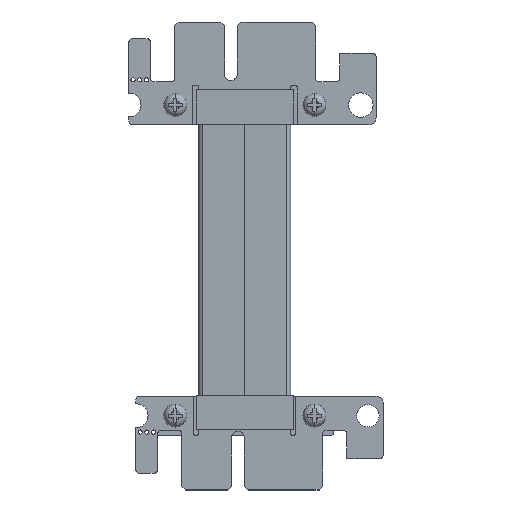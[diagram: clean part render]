
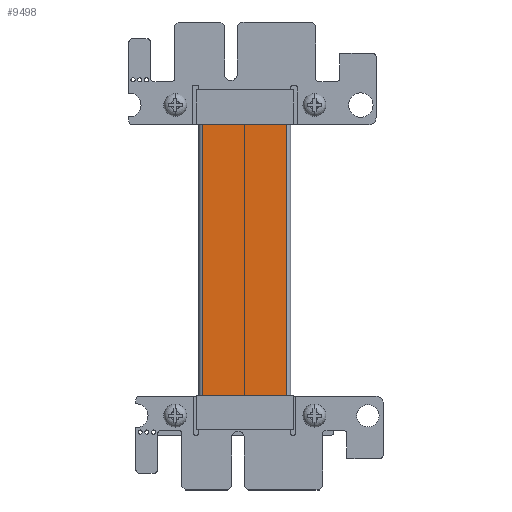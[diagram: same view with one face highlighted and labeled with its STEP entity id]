
A CAD part, top view. The second image highlights one B-rep face of the part: STEP entity #9498.
In plain terms, the highlighted planar face has unit normal (0, 0, 1) as drawn and (0, -1, 0) by its records, which use the part's own axes.
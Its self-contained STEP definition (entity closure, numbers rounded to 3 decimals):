
#9461 = VERTEX_POINT('',#9462);
#9462 = CARTESIAN_POINT('',(12.065,-1.4,-43.));
#9480 = VERTEX_POINT('',#9481);
#9481 = CARTESIAN_POINT('',(12.065,-1.4,0.));
#9488 = EDGE_CURVE('',#9461,#9480,#9489,.T.);
#9489 = LINE('',#9490,#9491);
#9490 = CARTESIAN_POINT('',(12.065,-1.4,-43.));
#9491 = VECTOR('',#9492,1.);
#9492 = DIRECTION('',(0.,0.,1.));
#9498 = ADVANCED_FACE('',(#9499),#9524,.T.);
#9499 = FACE_BOUND('',#9500,.T.);
#9500 = EDGE_LOOP('',(#9501,#9509,#9517,#9523));
#9501 = ORIENTED_EDGE('',*,*,#9502,.F.);
#9502 = EDGE_CURVE('',#9503,#9480,#9505,.T.);
#9503 = VERTEX_POINT('',#9504);
#9504 = CARTESIAN_POINT('',(0.,-1.4,0.
    ));
#9505 = LINE('',#9506,#9507);
#9506 = CARTESIAN_POINT('',(6.032,-1.4,0.));
#9507 = VECTOR('',#9508,1.);
#9508 = DIRECTION('',(1.,0.,0.));
#9509 = ORIENTED_EDGE('',*,*,#9510,.F.);
#9510 = EDGE_CURVE('',#9511,#9503,#9513,.T.);
#9511 = VERTEX_POINT('',#9512);
#9512 = CARTESIAN_POINT('',(0.,-1.4,-43.));
#9513 = LINE('',#9514,#9515);
#9514 = CARTESIAN_POINT('',(0.,-1.4,-43.));
#9515 = VECTOR('',#9516,1.);
#9516 = DIRECTION('',(0.,0.,1.));
#9517 = ORIENTED_EDGE('',*,*,#9518,.T.);
#9518 = EDGE_CURVE('',#9511,#9461,#9519,.T.);
#9519 = LINE('',#9520,#9521);
#9520 = CARTESIAN_POINT('',(12.065,-1.4,-43.));
#9521 = VECTOR('',#9522,1.);
#9522 = DIRECTION('',(1.,0.,0.));
#9523 = ORIENTED_EDGE('',*,*,#9488,.T.);
#9524 = PLANE('',#9525);
#9525 = AXIS2_PLACEMENT_3D('',#9526,#9527,#9528);
#9526 = CARTESIAN_POINT('',(6.032,-1.4,-43.));
#9527 = DIRECTION('',(0.,-1.,0.));
#9528 = DIRECTION('',(0.,0.,-1.));
